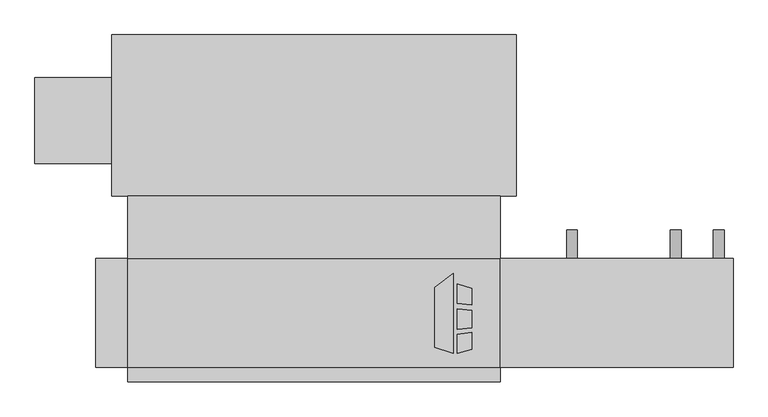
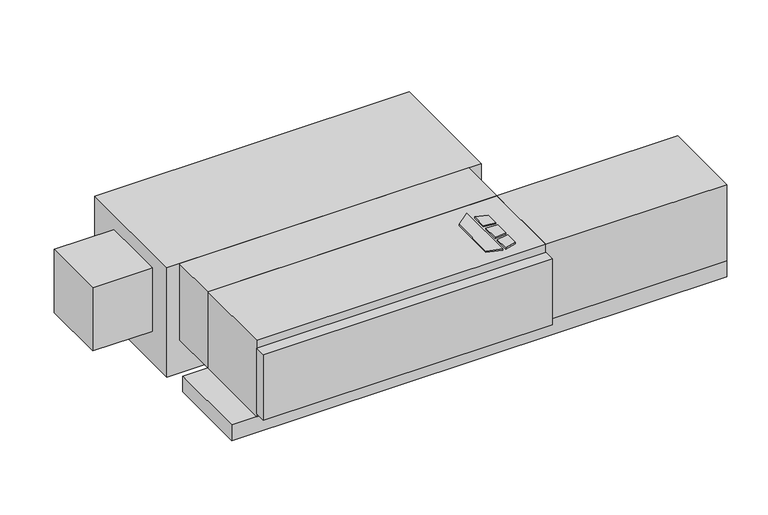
"""IFC4 building model written with IfcOpenShell, lengths in millimetres: proxy geometry, Concealed_Horizontal_Fan_Coil_Unit_With_Plenum_-_CPF_-_IEC_-_2-Pipe_RH : Size 04 - 115v/60Hz/1Ph - 4/1 Coil."""

from ifc_helpers import new_model, si_unit, point, frame, frame_2d, origin, origin_with_axes, place, context, project, spatial, polyline, circle_curve, trimmed, segment, composite_curve, outline, extrude, source, transform, mapped, element, save


def mechanical_equipment_32d30ee1(model_context):
    return source(origin(), model_context, "Body", "SweptSolid", [
        extrude(outline(polyline([(366.4019761, -193.0453476), (398.9602728, -167.6080184), (398.9602728, -309.5625), (366.4019761, -299.3429201), (366.4019761, -193.0453476)])), origin_with_axes(), (0.0, 0.0, 1.0), 3.175),
        extrude(outline(polyline([(405.7186058, -220.917352), (405.7186058, -186.4374379), (431.8, -194.6240115), (431.8, -224.1197446), (405.7186058, -220.917352)])), origin_with_axes(), (0.0, 0.0, 1.0), 3.175),
        extrude(outline(polyline([(431.8, -302.5740115), (405.7186058, -309.5625), (405.7186058, -276.3411996), (431.8, -272.7993564), (431.8, -302.5740115)])), origin_with_axes(), (0.0, 0.0, 1.0), 3.175),
        extrude(outline(polyline([(431.8, -233.2013277), (431.8, -264.451483), (405.7186058, -267.192748), (405.7186058, -231.3350378), (431.8, -233.2013277)])), origin_with_axes(), (0.0, 0.0, 1.0), 3.175),
        extrude(outline(polyline([(-177.8, -30.1625), (482.6, -30.1625), (482.6, -141.2875), (-177.8, -141.2875), (-177.8, -30.1625)])), frame((0.0, 0.0, -184.15), z_axis=(0.0, 0.0, 1.0), x_axis=(1.0, 0.0, 0.0)), (0.0, 0.0, 1.0), 184.15),
        extrude(outline(composite_curve([segment(trimmed(circle_curve(frame_2d((-158.75, 793.75)), 9.525), [point((-158.75, 803.275))], [point((-158.75, 784.225))], False, "CARTESIAN"), True, "CONTINUOUS"), segment(trimmed(circle_curve(frame_2d((-158.75, 793.75)), 9.525), [point((-158.75, 784.225))], [point((-158.75, 803.275))], False, "CARTESIAN"), True, "CONTINUOUS")], self_intersect=False)), frame((0.0, -141.2875, 0.0), z_axis=(0.0, 1.0, 0.0), x_axis=(0.0, 0.0, 1.0)), (0.0, 0.0, 1.0), 50.8),
        extrude(outline(composite_curve([segment(trimmed(circle_curve(frame_2d((-158.75, 609.6)), 9.525), [point((-158.75, 619.125))], [point((-158.75, 600.075))], False, "CARTESIAN"), True, "CONTINUOUS"), segment(trimmed(circle_curve(frame_2d((-158.75, 609.6)), 9.525), [point((-158.75, 600.075))], [point((-158.75, 619.125))], False, "CARTESIAN"), True, "CONTINUOUS")], self_intersect=False)), frame((0.0, -141.2875, 0.0), z_axis=(0.0, 1.0, 0.0), x_axis=(0.0, 0.0, 1.0)), (0.0, 0.0, 1.0), 50.8),
        extrude(outline(polyline([(895.35, -141.2875), (895.35, -334.9625), (482.6, -334.9625), (482.6, -141.2875), (895.35, -141.2875)])), frame((0.0, 0.0, -184.15), z_axis=(0.0, 0.0, 1.0), x_axis=(1.0, 0.0, 0.0)), (0.0, 0.0, 1.0), 184.15),
        extrude(outline(composite_curve([segment(trimmed(circle_curve(frame_2d((-209.55, 869.95)), 9.525), [point((-209.55, 860.425))], [point((-209.55, 879.475))], False, "CARTESIAN"), True, "CONTINUOUS"), segment(trimmed(circle_curve(frame_2d((-209.55, 869.95)), 9.525), [point((-209.55, 879.475))], [point((-209.55, 860.425))], False, "CARTESIAN"), True, "CONTINUOUS")], self_intersect=False)), frame((0.0, -141.2875, 0.0), z_axis=(0.0, 1.0, 0.0), x_axis=(0.0, 0.0, 1.0)), (0.0, 0.0, 1.0), 50.8),
        extrude(outline(polyline([(482.6, -334.9625), (482.6, -360.3625), (-177.8, -360.3625), (-177.8, -334.9625), (482.6, -334.9625)])), frame((0.0, 0.0, -177.8), z_axis=(0.0, 0.0, 1.0), x_axis=(1.0, 0.0, 0.0)), (0.0, 0.0, 1.0), 158.75),
        extrude(outline(polyline([(482.6, -334.9625), (-177.8, -334.9625), (-177.8, -141.2875), (482.6, -141.2875), (482.6, -334.9625)])), frame((0.0, 0.0, -184.15), z_axis=(0.0, 0.0, 1.0), x_axis=(1.0, 0.0, 0.0)), (0.0, 0.0, 1.0), 184.15),
        extrude(outline(polyline([(895.35, -141.2875), (895.35, -334.9625), (-234.95, -334.9625), (-234.95, -141.2875), (895.35, -141.2875)])), frame((0.0, 0.0, -222.25), z_axis=(0.0, 0.0, 1.0), x_axis=(1.0, 0.0, 0.0)), (0.0, 0.0, 1.0), 38.1),
        extrude(outline(polyline([(-342.9, 26.9875), (-342.9, 179.3875), (-206.375, 179.3875), (-206.375, 26.9875), (-342.9, 26.9875)])), frame((0.0, 0.0, -187.325), z_axis=(0.0, 0.0, 1.0), x_axis=(1.0, 0.0, 0.0)), (0.0, 0.0, 1.0), 152.4),
        extrude(outline(polyline([(-206.375, 255.5875), (511.175, 255.5875), (511.175, -30.1625), (-206.375, -30.1625), (-206.375, 255.5875)])), frame((0.0, 0.0, -263.525), z_axis=(0.0, 0.0, 1.0), x_axis=(1.0, 0.0, 0.0)), (0.0, 0.0, 1.0), 263.525),
    ])


if __name__ == "__main__":
    model = new_model("IFC4")
    model_context = context("Model", 3, world=origin())
    ifc_project = project(units=[si_unit("LENGTHUNIT", "METRE", prefix="MILLI")], contexts=[model_context])
    site = spatial("IfcSite", under=ifc_project)
    building = spatial("IfcBuilding", under=site)
    placement = place(None, origin())
    mechanical_equipment_shape = mechanical_equipment_32d30ee1(model_context)
    element("IfcBuildingElementProxy", 1, Name="Concealed_Horizontal_Fan_Coil_Unit_With_Plenum_-_CPF_-_IEC_-_2-Pipe_RH : Size 04 - 115v/60Hz/1Ph - 4/1 Coil", ObjectType="Concealed_Horizontal_Fan_Coil_Unit_With_Plenum_-_CPF_-_IEC_-_2-Pipe_RH : Size 04 - 115v/60Hz/1Ph - 4/1 Coil", at=placement, inside=building, context=model_context, shape_type="MappedRepresentation", body=[
        mapped(mechanical_equipment_shape, transform((0.0, 0.0, 0.0), x_axis=(1.0, 0.0, 0.0), y_axis=(0.0, 1.0, 0.0), z_axis=(0.0, 0.0, 1.0))),
    ])
    save(model, "model.ifc")
